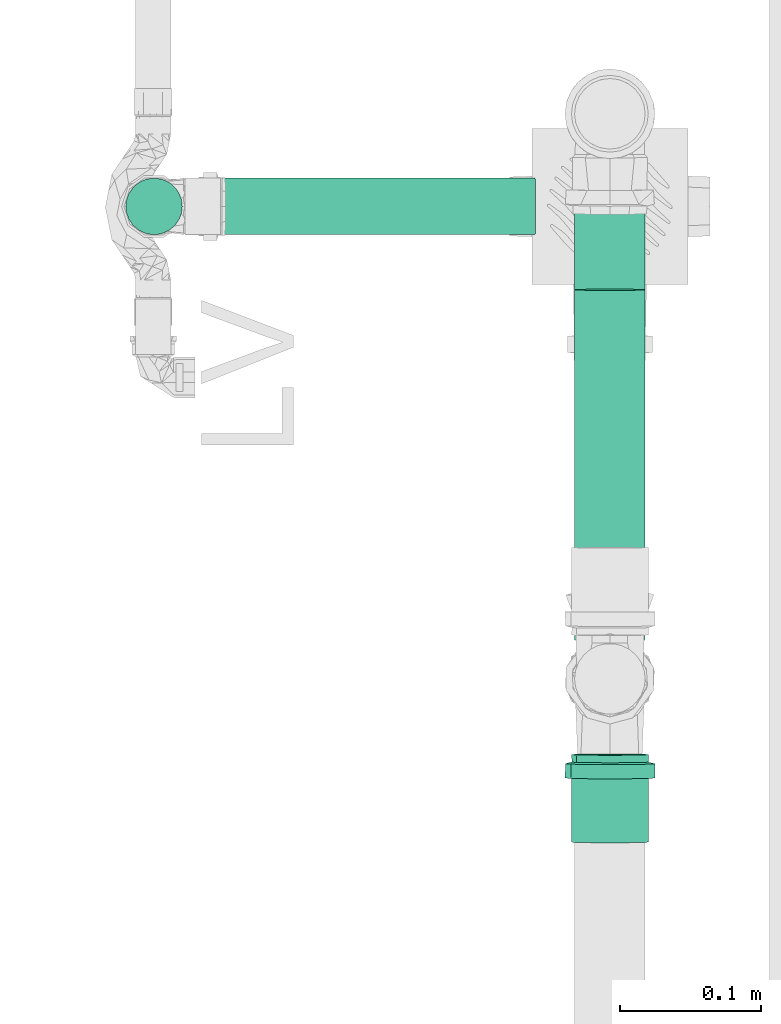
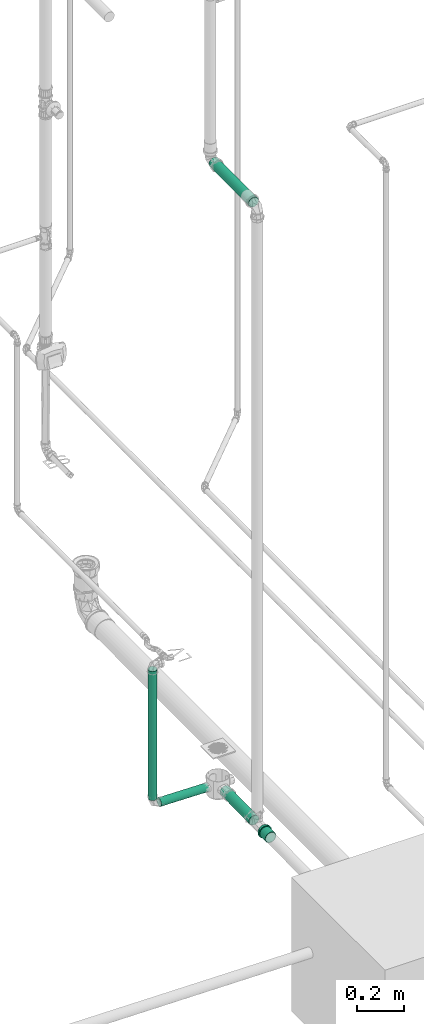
# One storey, part 39 of 589: 4 flow segments, 1 flow fitting.
"""IFC2X3 building model written with IfcOpenShell, lengths in millimetres."""

from ifc_helpers import new_model, entity, si_unit, converted_unit, derived_unit, direction, frame, frame_2d, origin, origin_2d_with_axis, place, context, subcontext, project, spatial, circle, extrude, faceted_brep, source, transform, mapped, material, type_object, type_shapes, element, save


model = new_model("IFC2X3")

# Units and contexts
model_context = context("Model", 3, precision=0.01, world=origin(), true_north=direction((6.123031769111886e-17, 1.0)))
body_context = subcontext(model_context, "Body", "Model", "MODEL_VIEW")
ifc_project = project(units=[si_unit("LENGTHUNIT", "METRE", prefix="MILLI"), si_unit("AREAUNIT", "SQUARE_METRE"), si_unit("VOLUMEUNIT", "CUBIC_METRE"), converted_unit("PLANEANGLEUNIT", "DEGREE", entity("IfcRatioMeasure", 0.017453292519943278), si_unit("PLANEANGLEUNIT", "RADIAN"), dimensions=[0, 0, 0, 0, 0, 0, 0]), si_unit("MASSUNIT", "GRAM", prefix="KILO"), derived_unit("MASSDENSITYUNIT", [(si_unit("MASSUNIT", "GRAM", prefix="KILO"), 1), (si_unit("LENGTHUNIT", "METRE"), -3)]), derived_unit("IONCONCENTRATIONUNIT", [(si_unit("MASSUNIT", "GRAM", prefix="KILO"), 1), (si_unit("LENGTHUNIT", "METRE"), -3)]), derived_unit("MOMENTOFINERTIAUNIT", [(si_unit("LENGTHUNIT", "METRE"), 4)]), si_unit("TIMEUNIT", "SECOND"), si_unit("FREQUENCYUNIT", "HERTZ"), si_unit("THERMODYNAMICTEMPERATUREUNIT", "DEGREE_CELSIUS"), derived_unit("THERMALTRANSMITTANCEUNIT", [(si_unit("MASSUNIT", "GRAM", prefix="KILO"), 1), (si_unit("THERMODYNAMICTEMPERATUREUNIT", "KELVIN"), -1), (si_unit("TIMEUNIT", "SECOND"), -3)]), derived_unit("THERMALCONDUCTANCEUNIT", [(si_unit("MASSUNIT", "GRAM", prefix="KILO"), 1), (si_unit("THERMODYNAMICTEMPERATUREUNIT", "KELVIN"), -1), (si_unit("TIMEUNIT", "SECOND"), -3), (si_unit("LENGTHUNIT", "METRE"), 1)]), derived_unit("VOLUMETRICFLOWRATEUNIT", [(si_unit("LENGTHUNIT", "METRE"), 3), (si_unit("TIMEUNIT", "SECOND"), -1)]), derived_unit("MASSFLOWRATEUNIT", [(si_unit("MASSUNIT", "GRAM", prefix="KILO"), 1), (si_unit("TIMEUNIT", "SECOND"), -1)]), derived_unit("ROTATIONALFREQUENCYUNIT", [(si_unit("TIMEUNIT", "SECOND"), -1)]), si_unit("ELECTRICCURRENTUNIT", "AMPERE"), si_unit("ELECTRICVOLTAGEUNIT", "VOLT"), si_unit("POWERUNIT", "WATT"), si_unit("FORCEUNIT", "NEWTON", prefix="KILO"), si_unit("ILLUMINANCEUNIT", "LUX"), si_unit("LUMINOUSFLUXUNIT", "LUMEN"), si_unit("LUMINOUSINTENSITYUNIT", "CANDELA"), derived_unit("USERDEFINED", [(si_unit("MASSUNIT", "GRAM", prefix="KILO"), -1), (si_unit("LENGTHUNIT", "METRE"), -2), (si_unit("TIMEUNIT", "SECOND"), 3), (si_unit("LUMINOUSFLUXUNIT", "LUMEN"), 1)]), derived_unit("USERDEFINED", [(si_unit("MASSUNIT", "GRAM", prefix="KILO"), 1), (si_unit("TIMEUNIT", "SECOND"), -3), (si_unit("LENGTHUNIT", "METRE"), 3), (si_unit("ELECTRICCURRENTUNIT", "AMPERE"), -2)]), derived_unit("SOUNDPOWERUNIT", [(si_unit("MASSUNIT", "GRAM", prefix="KILO"), 1), (si_unit("TIMEUNIT", "SECOND"), -3), (si_unit("LENGTHUNIT", "METRE"), 2)]), derived_unit("SOUNDPRESSUREUNIT", [(si_unit("MASSUNIT", "GRAM", prefix="KILO"), 1), (si_unit("LENGTHUNIT", "METRE"), -1), (si_unit("TIMEUNIT", "SECOND"), -2)]), derived_unit("LINEARVELOCITYUNIT", [(si_unit("LENGTHUNIT", "METRE"), 1), (si_unit("TIMEUNIT", "SECOND"), -1)]), si_unit("PRESSUREUNIT", "PASCAL"), derived_unit("USERDEFINED", [(si_unit("MASSUNIT", "GRAM", prefix="KILO"), 1), (si_unit("LENGTHUNIT", "METRE"), -2), (si_unit("TIMEUNIT", "SECOND"), -2)]), derived_unit("LINEARFORCEUNIT", [(si_unit("MASSUNIT", "GRAM", prefix="KILO"), 1), (si_unit("TIMEUNIT", "SECOND"), -2)]), derived_unit("PLANARFORCEUNIT", [(si_unit("MASSUNIT", "GRAM", prefix="KILO"), 1), (si_unit("LENGTHUNIT", "METRE"), -1), (si_unit("TIMEUNIT", "SECOND"), -2)]), derived_unit("SPECIFICHEATCAPACITYUNIT", [(si_unit("THERMODYNAMICTEMPERATUREUNIT", "KELVIN"), -1), (si_unit("LENGTHUNIT", "METRE"), 2), (si_unit("TIMEUNIT", "SECOND"), -2)]), derived_unit("HEATINGVALUEUNIT", [(si_unit("LENGTHUNIT", "METRE"), 2), (si_unit("TIMEUNIT", "SECOND"), -2)]), derived_unit("VAPORPERMEABILITYUNIT", [(si_unit("LENGTHUNIT", "METRE"), -1), (si_unit("TIMEUNIT", "SECOND"), 1)]), derived_unit("DYNAMICVISCOSITYUNIT", [(si_unit("MASSUNIT", "GRAM", prefix="KILO"), 1), (si_unit("TIMEUNIT", "SECOND"), -1), (si_unit("LENGTHUNIT", "METRE"), -1)]), derived_unit("THERMALEXPANSIONCOEFFICIENTUNIT", [(si_unit("THERMODYNAMICTEMPERATUREUNIT", "KELVIN"), -1)]), derived_unit("MODULUSOFELASTICITYUNIT", [(si_unit("MASSUNIT", "GRAM", prefix="KILO"), 1), (si_unit("LENGTHUNIT", "METRE"), -1), (si_unit("TIMEUNIT", "SECOND"), -2)]), derived_unit("ISOTHERMALMOISTURECAPACITYUNIT", [(si_unit("LENGTHUNIT", "METRE"), 3), (si_unit("MASSUNIT", "GRAM", prefix="KILO"), -1)]), derived_unit("MOISTUREDIFFUSIVITYUNIT", [(si_unit("TIMEUNIT", "SECOND"), -1), (si_unit("LENGTHUNIT", "METRE"), 2)])], contexts=[model_context])

# Site, building, storey
site_placement = place(None, origin())
site = spatial("IfcSite", under=ifc_project, at=site_placement, Name="Default", CompositionType="ELEMENT")
building_placement = place(site_placement, origin())
building = spatial("IfcBuilding", under=site, at=building_placement, CompositionType="ELEMENT")
storey_placement = place(building_placement, frame((0.0, 0.0, 100.0)))
storey = spatial("IfcBuildingStorey", under=building, at=storey_placement, Name="TÉRREO", CompositionType="ELEMENT", Elevation=100.0)

# Flow segments
pipe_segment_type = type_object("IfcPipeSegmentType", Name="Tipos de tubos:PVC Esgoto Série Normal", PredefinedType="NOTDEFINED")
flow_segment_1_placement = place(storey_placement, origin())
element("IfcFlowSegment", 1, at=flow_segment_1_placement, inside=storey, type_object=pipe_segment_type, Name="Tipos de tubos:PVC Esgoto Série Normal", ObjectType="Tipos de tubos:PVC Esgoto Série Normal", context=body_context, shape_type="SweptSolid", body=[
    extrude(circle(Radius=25.0, at=frame_2d((-2.707167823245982e-13, -3.383283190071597e-14), x_axis=(1.0, 0.0))), frame((1855.1564123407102, -10029.87839340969, -242.75882369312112), z_axis=(0.0, 0.999800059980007, 0.019996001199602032), x_axis=(1.0, 0.0, 0.0)), (0.0, 0.0, 1.0), 248.07696651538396),
])
flow_segment_2_placement = place(storey_placement, origin())
element("IfcFlowSegment", 2, at=flow_segment_2_placement, inside=storey, type_object=pipe_segment_type, Name="Tipos de tubos:PVC Esgoto Série Normal", ObjectType="Tipos de tubos:PVC Esgoto Série Normal", context=body_context, shape_type="SweptSolid", body=[
    extrude(circle(Radius=20.0, at=frame_2d((0.0, -3.3832831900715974e-14), x_axis=(1.0, 0.0))), frame((1802.256412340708, -9722.851027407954, -237.7982763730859), z_axis=(-0.9998000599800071, 0.0, 0.01999600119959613), x_axis=(0.0, -1.0, 0.0)), (0.0, 0.0, 1.0), 237.62820768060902),
])
flow_segment_3_placement = place(storey_placement, origin())
element("IfcFlowSegment", 3, at=flow_segment_3_placement, inside=storey, type_object=pipe_segment_type, Name="Tipos de tubos:PVC Esgoto Série Normal", ObjectType="Tipos de tubos:PVC Esgoto Série Normal", context=body_context, shape_type="SweptSolid", body=[
    extrude(circle(Radius=20.0, at=origin_2d_with_axis()), frame((1532.4761559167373, -9722.851027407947, -200.19667184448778)), (0.0, 0.0, 1.0), 673.3966718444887),
])
flow_segment_4_placement = place(storey_placement, origin())
element("IfcFlowSegment", 4, at=flow_segment_4_placement, inside=storey, type_object=pipe_segment_type, Name="Tipos de tubos:PVC Esgoto Série Normal", ObjectType="Tipos de tubos:PVC Esgoto Série Normal", context=body_context, shape_type="SweptSolid", body=[
    extrude(circle(Radius=25.0, at=frame_2d((0.0, 5.197502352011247e-13), x_axis=(1.0, 0.0))), frame((1855.1564123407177, -10026.333162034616, 2977.002683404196), z_axis=(0.0, 0.9999500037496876, 0.009999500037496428), x_axis=(1.0, 0.0, 0.0)), (0.0, 0.0, 1.0), 338.137399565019),
])

# Flow fitting
ifc_material = material(Name="PVC Série Normal")
pipe_fitting_type = type_object("IfcPipeFittingType", Name="PVC Esgoto_Luva Simples para Conexão_Rodrigo MEP:Standard", PredefinedType="NOTDEFINED", material=ifc_material)
shared_shape = source(origin(), body_context, "Body", "Brep", [
    faceted_brep([(16.599999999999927, -13.599999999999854, -23.555890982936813), (16.599999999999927, -22.485995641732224, -22.485995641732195), (16.599999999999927, -15.900000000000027, -27.53960784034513), (16.599999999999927, -19.233304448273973, -19.233304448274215), (16.599999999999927, -7.039878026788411, -26.273182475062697), (16.599999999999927, -27.539607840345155, -15.899999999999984), (16.599999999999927, -23.55589098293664, -13.600000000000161), (16.599999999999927, -26.273182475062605, -7.03987802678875), (16.599999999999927, -30.716441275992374, -8.230445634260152), (16.599999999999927, -27.2, 0.0), (16.599999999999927, -31.8, 0.0), (16.599999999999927, -26.273182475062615, 7.0398780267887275), (16.599999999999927, -30.71644127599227, 8.23044563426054), (16.599999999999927, -23.555890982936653, 13.60000000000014), (16.599999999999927, -27.539607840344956, 15.900000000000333), (16.599999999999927, -19.233304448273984, 19.2333044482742), (16.599999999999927, -22.485995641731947, 22.48599564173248), (16.599999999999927, -13.599999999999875, 23.555890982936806), (16.599999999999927, -15.899999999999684, 27.53960784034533), (16.599999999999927, -7.039878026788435, 26.27318247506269), (16.599999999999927, -8.230445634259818, 30.716441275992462), (16.599999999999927, 0.0, 27.2), (16.599999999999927, 0.0, 31.8), (16.599999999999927, 7.039878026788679, 26.273182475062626), (16.599999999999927, 8.230445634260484, 30.716441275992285), (16.599999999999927, 13.600000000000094, 23.555890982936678), (16.599999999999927, 15.900000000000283, 27.53960784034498), (16.599999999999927, 19.23330444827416, 19.233304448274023), (16.599999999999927, 22.485995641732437, 22.48599564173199), (16.599999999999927, 23.55589098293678, 13.59999999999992), (16.599999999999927, 27.539607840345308, 15.899999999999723), (16.599999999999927, 30.71644127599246, 8.230445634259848), (16.599999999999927, 26.273182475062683, 7.039878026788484), (16.599999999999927, 31.8, 0.0), (16.599999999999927, 27.2, 0.0), (16.599999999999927, 30.71644127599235, -8.23044563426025), (16.599999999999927, 26.273182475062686, -7.03987802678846), (16.599999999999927, 27.53960784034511, -15.90000000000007), (16.599999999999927, 23.55589098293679, -13.599999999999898), (16.599999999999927, 22.485995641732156, -22.485995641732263), (16.599999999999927, 19.233304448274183, -19.233304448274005), (16.599999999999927, 15.899999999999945, -27.53960784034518), (16.599999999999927, 13.600000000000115, -23.555890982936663), (16.599999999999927, 8.230445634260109, -30.716441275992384), (16.599999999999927, 7.039878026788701, -26.273182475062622), (16.599999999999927, 0.0, -31.8), (16.599999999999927, 0.0, -27.2), (16.599999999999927, -8.2304456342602, -30.71644127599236), (6.5000000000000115, 31.8, 0.0), (6.500000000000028, 30.243828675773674, 9.826028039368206), (6.500000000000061, 18.6933889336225, 25.72541953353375), (6.500000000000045, 25.727620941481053, 18.69035903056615), (6.500000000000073, 9.829589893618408, 30.24267122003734), (6.50000000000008, 0.0037451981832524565, 31.799999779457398), (6.5000000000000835, -9.822466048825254, 30.244985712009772), (6.500000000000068, -25.723217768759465, 18.696418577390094), (6.50000000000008, -18.687328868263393, 25.729821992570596), (6.50000000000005, -30.24167131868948, 9.832665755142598), (6.5000000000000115, -31.8, 0.0), (6.499999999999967, -24.364200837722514, -20.435892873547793), (6.499999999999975, -27.12442527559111, -15.652735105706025), (6.499999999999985, -29.884649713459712, -10.869577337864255), (6.499999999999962, -20.134403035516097, -23.986420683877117), (6.4999999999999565, -15.904605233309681, -27.53694849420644), (6.499999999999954, -10.715490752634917, -29.42653259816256), (6.499999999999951, -5.526376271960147, -31.31611670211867), (6.499999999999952, -0.003927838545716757, -31.316809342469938), (6.499999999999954, 5.518520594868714, -31.317501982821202), (6.499999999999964, 15.897697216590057, -27.54093722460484), (6.499999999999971, 20.128385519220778, -23.99147055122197), (6.499999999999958, 10.70810890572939, -29.42921960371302), (6.499999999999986, 27.12049800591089, -15.659538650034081), (6.499999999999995, 29.881922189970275, -10.877073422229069), (6.499999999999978, 24.359073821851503, -20.442003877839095), (6.499999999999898, 30.69617385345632, -6.259599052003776), (6.500000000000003, 30.84096109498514, -5.438536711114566), (62.0, -12.499999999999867, -21.650635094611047), (62.0, -19.233304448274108, -19.23330444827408), (62.0, -13.600000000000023, -23.55589098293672), (62.0, -6.470476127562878, -24.14814565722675), (62.0, -17.677669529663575, -17.677669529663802), (62.0, -23.55589098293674, -13.599999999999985), (62.0, -21.65063509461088, -12.50000000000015), (62.0, -24.148145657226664, -6.470476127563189), (62.0, -26.27318247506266, -7.039878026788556), (62.0, -25.0, 0.0), (62.0, -27.2, 0.0), (62.0, -24.148145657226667, 6.4704761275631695), (62.0, -26.273182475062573, 7.03987802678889), (62.0, -21.650635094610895, 12.500000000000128), (62.0, -23.555890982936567, 13.600000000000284), (62.0, -17.67766952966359, 17.67766952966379), (62.0, -19.233304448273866, 19.233304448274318), (62.0, -12.499999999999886, 21.650635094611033), (62.0, -13.59999999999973, 23.55589098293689), (62.0, -6.4704761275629, 24.14814565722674), (62.0, -7.039878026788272, 26.273182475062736), (62.0, 0.0, 25.0), (62.0, 0.0, 27.2), (62.0, 6.470476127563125, 24.148145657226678), (62.0, 7.039878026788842, 26.273182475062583), (62.0, 12.500000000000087, 21.650635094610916), (62.0, 13.600000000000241, 23.555890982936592), (62.0, 17.677669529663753, 17.677669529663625), (62.0, 19.233304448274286, 19.2333044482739), (62.0, 21.65063509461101, 12.499999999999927), (62.0, 23.555890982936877, 13.599999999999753), (62.0, 26.27318247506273, 7.039878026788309), (62.0, 24.14814565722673, 6.470476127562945), (62.0, 27.2, 0.0), (62.0, 25.0, 0.0), (62.0, 26.27318247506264, -7.0398780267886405), (62.0, 24.148145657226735, -6.470476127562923), (62.0, 23.5558909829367, -13.600000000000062), (62.0, 21.650635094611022, -12.499999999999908), (62.0, 19.233304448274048, -19.233304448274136), (62.0, 17.67766952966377, -17.677669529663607), (62.0, 13.599999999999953, -23.555890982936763), (62.0, 12.500000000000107, -21.650635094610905), (62.0, 7.039878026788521, -26.27318247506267), (62.0, 6.470476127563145, -24.148145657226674), (62.0, 0.0, -27.2), (62.0, 0.0, -25.0), (62.0, -7.039878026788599, -26.273182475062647), (0.0, -13.600000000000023, -23.55589098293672), (0.0, -19.233304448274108, -19.23330444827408), (0.0, -12.499999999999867, -21.650635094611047), (0.0, -6.470476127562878, -24.14814565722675), (0.0, -7.039878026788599, -26.273182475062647), (0.0, -17.677669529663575, -17.677669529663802), (0.0, -23.55589098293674, -13.599999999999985), (0.0, -21.65063509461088, -12.50000000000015), (0.0, -24.148145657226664, -6.470476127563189), (0.0, -26.27318247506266, -7.039878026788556), (0.0, -25.0, 0.0), (0.0, -27.2, 0.0), (0.0, -24.148145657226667, 6.4704761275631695), (0.0, -26.273182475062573, 7.03987802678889), (0.0, -21.650635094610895, 12.500000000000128), (0.0, -23.555890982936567, 13.600000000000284), (0.0, -17.67766952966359, 17.67766952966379), (0.0, -19.233304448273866, 19.233304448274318), (0.0, -12.499999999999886, 21.650635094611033), (0.0, -13.59999999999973, 23.55589098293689), (0.0, -6.4704761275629, 24.14814565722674), (0.0, -7.039878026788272, 26.273182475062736), (0.0, 0.0, 25.0), (0.0, 0.0, 27.2), (0.0, 6.470476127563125, 24.148145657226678), (0.0, 7.039878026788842, 26.273182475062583), (0.0, 12.500000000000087, 21.650635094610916), (0.0, 13.600000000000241, 23.555890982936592), (0.0, 17.677669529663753, 17.677669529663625), (0.0, 19.233304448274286, 19.2333044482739), (0.0, 21.65063509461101, 12.499999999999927), (0.0, 23.555890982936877, 13.599999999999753), (0.0, 26.27318247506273, 7.039878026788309), (0.0, 24.14814565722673, 6.470476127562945), (0.0, 27.2, 0.0), (0.0, 25.0, 0.0), (0.0, 26.27318247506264, -7.0398780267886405), (0.0, 24.148145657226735, -6.470476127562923), (0.0, 23.5558909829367, -13.600000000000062), (0.0, 21.650635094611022, -12.499999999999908), (0.0, 19.233304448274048, -19.233304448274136), (0.0, 17.67766952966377, -17.677669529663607), (0.0, 13.599999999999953, -23.555890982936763), (0.0, 12.500000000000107, -21.650635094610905), (0.0, 7.039878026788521, -26.27318247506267), (0.0, 6.470476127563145, -24.148145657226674), (0.0, 0.0, -27.2), (0.0, 0.0, -25.0), (5.299999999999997, 27.2, 0.0), (5.300000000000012, 25.868346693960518, 8.406464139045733), (5.300000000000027, 22.003776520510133, 15.989803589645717), (5.30000000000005, 8.400454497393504, 25.870298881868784), (5.300000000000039, 15.9846915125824, 22.007490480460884), (5.300000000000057, -0.00631876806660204, 27.199999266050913), (5.30000000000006, -8.412473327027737, 25.866393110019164), (5.3000000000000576, -15.99491480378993, 22.00006137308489), (5.300000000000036, -25.8722496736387, 8.394444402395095), (5.30000000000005, -22.011203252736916, 15.97957857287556), (5.299999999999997, -27.2, 0.0), (5.299999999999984, -25.56171296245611, -9.29724854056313), (5.2999999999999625, -17.22187932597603, -20.516686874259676), (5.299999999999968, -20.839819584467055, -17.47975742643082), (5.299999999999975, -23.200766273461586, -13.388502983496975), (5.2999999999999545, -9.165451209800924, -25.169864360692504), (5.299999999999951, -4.726963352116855, -26.78611239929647), (5.299999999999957, -13.603939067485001, -23.553616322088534), (5.29999999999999, 26.379689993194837, -4.651830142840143), (5.299999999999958, 13.5980303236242, -23.55702806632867), (5.299999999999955, 9.159137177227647, -25.17216267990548), (5.299999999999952, 4.720244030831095, -26.787297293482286), (5.299999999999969, 20.83543421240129, -17.484984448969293), (5.299999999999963, 17.216732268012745, -20.52100625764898), (5.299999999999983, 25.559379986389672, -9.303660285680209), (5.299999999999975, 23.197407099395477, -13.394322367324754), (5.299999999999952, -0.0033596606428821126, -26.78670484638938), (39.0, 25.0, 0.0), (39.0, -25.0, 0.0)], [[[0, 1, 2]], [[3, 1, 0]], [[4, 0, 2]], [[1, 3, 5]], [[5, 3, 6]], [[5, 6, 7]], [[8, 5, 7]], [[9, 8, 7]], [[10, 8, 9]], [[10, 9, 11]], [[12, 10, 11]], [[12, 11, 13]], [[14, 12, 13]], [[14, 13, 15]], [[15, 16, 14]], [[15, 17, 16]], [[17, 18, 16]], [[19, 18, 17]], [[18, 19, 20]], [[21, 20, 19]], [[22, 20, 21]], [[23, 22, 21]], [[24, 22, 23]], [[25, 24, 23]], [[24, 25, 26]], [[25, 27, 26]], [[28, 26, 27]], [[28, 27, 29]], [[28, 29, 30]], [[30, 29, 31]], [[31, 29, 32]], [[33, 31, 32]], [[33, 32, 34]], [[33, 34, 35]], [[34, 36, 35]], [[37, 35, 36]], [[37, 36, 38]], [[39, 37, 38]], [[40, 39, 38]], [[40, 41, 39]], [[42, 41, 40]], [[43, 41, 42]], [[42, 44, 43]], [[43, 44, 45]], [[44, 46, 45]], [[46, 4, 47]], [[45, 46, 47]], [[2, 47, 4]], [[33, 48, 31]], [[31, 49, 30]], [[26, 28, 50]], [[51, 28, 30]], [[24, 26, 52]], [[49, 51, 30]], [[31, 48, 49]], [[50, 52, 26]], [[28, 51, 50]], [[52, 53, 24]], [[53, 22, 24]], [[20, 53, 54]], [[20, 54, 18]], [[14, 16, 55]], [[56, 16, 18]], [[12, 14, 57]], [[56, 55, 16]], [[18, 54, 56]], [[57, 58, 12]], [[14, 55, 57]], [[58, 10, 12]], [[22, 53, 20]], [[8, 10, 58]], [[59, 1, 5]], [[60, 59, 5, 61]], [[2, 62, 63]], [[8, 58, 61]], [[2, 63, 64]], [[47, 2, 64]], [[64, 65, 47]], [[62, 1, 59]], [[66, 67, 45, 65]], [[41, 68, 69]], [[1, 62, 2]], [[39, 41, 69]], [[8, 61, 5]], [[43, 45, 67]], [[68, 41, 70]], [[71, 72, 37, 73]], [[43, 70, 41]], [[72, 35, 37]], [[69, 73, 39]], [[70, 43, 67]], [[47, 65, 45]], [[39, 73, 37]], [[35, 72, 74, 75]], [[33, 75, 48]], [[35, 75, 33]], [[76, 77, 78]], [[79, 76, 78]], [[80, 77, 76]], [[77, 80, 81]], [[82, 81, 80]], [[83, 81, 82]], [[81, 83, 84]], [[83, 85, 84]], [[86, 84, 85]], [[86, 85, 87]], [[87, 88, 86]], [[89, 88, 87]], [[88, 89, 90]], [[91, 90, 89]], [[92, 90, 91]], [[92, 91, 93]], [[93, 94, 92]], [[95, 94, 93]], [[94, 95, 96]], [[97, 96, 95]], [[98, 96, 97]], [[99, 98, 97]], [[100, 98, 99]], [[101, 100, 99]], [[100, 101, 102]], [[101, 103, 102]], [[104, 102, 103]], [[103, 105, 104]], [[104, 105, 106]], [[107, 106, 105]], [[105, 108, 107]], [[107, 108, 109]], [[108, 110, 109]], [[109, 110, 111]], [[110, 112, 111]], [[113, 111, 112]], [[112, 114, 113]], [[115, 113, 114]], [[116, 115, 114]], [[116, 117, 115]], [[118, 117, 116]], [[119, 117, 118]], [[118, 120, 119]], [[119, 120, 121]], [[120, 122, 121]], [[122, 79, 123]], [[121, 122, 123]], [[78, 123, 79]], [[124, 125, 126]], [[124, 126, 127]], [[127, 128, 124]], [[126, 125, 129]], [[130, 129, 125]], [[129, 130, 131]], [[131, 130, 132]], [[133, 132, 130]], [[133, 134, 132]], [[134, 133, 135]], [[136, 134, 135]], [[135, 137, 136]], [[136, 137, 138]], [[139, 138, 137]], [[138, 139, 140]], [[140, 139, 141]], [[142, 140, 141]], [[141, 143, 142]], [[142, 143, 144]], [[145, 144, 143]], [[144, 145, 146]], [[146, 145, 147]], [[146, 147, 148]], [[148, 147, 149]], [[148, 149, 150]], [[151, 150, 149]], [[151, 152, 150]], [[152, 151, 153]], [[153, 154, 152]], [[155, 154, 153]], [[154, 155, 156]], [[156, 157, 154]], [[158, 157, 156]], [[158, 159, 157]], [[160, 159, 158]], [[160, 161, 159]], [[161, 160, 162]], [[162, 163, 161]], [[163, 162, 164]], [[163, 164, 165]], [[164, 166, 165]], [[165, 166, 167]], [[167, 166, 168]], [[168, 169, 167]], [[170, 169, 168]], [[128, 171, 170]], [[170, 171, 169]], [[128, 127, 171]], [[172, 156, 173]], [[173, 155, 174]], [[175, 176, 151]], [[175, 149, 177]], [[153, 176, 174]], [[177, 149, 147]], [[156, 155, 173]], [[172, 158, 156]], [[32, 107, 109, 34]], [[153, 151, 176]], [[174, 155, 153]], [[151, 149, 175]], [[177, 145, 178]], [[178, 143, 179]], [[180, 181, 139]], [[141, 181, 179]], [[182, 180, 137]], [[143, 141, 179]], [[178, 145, 143]], [[139, 137, 180]], [[181, 141, 139]], [[137, 135, 182]], [[86, 88, 11, 9]], [[147, 145, 177]], [[183, 182, 133]], [[184, 185, 125]], [[186, 183, 130, 185]], [[187, 128, 188]], [[183, 133, 130]], [[182, 135, 133]], [[86, 9, 7, 84]], [[128, 187, 124]], [[124, 189, 184]], [[125, 185, 130]], [[160, 158, 190]], [[166, 191, 192]], [[187, 189, 124]], [[168, 166, 192]], [[188, 128, 170]], [[125, 124, 184]], [[192, 193, 168]], [[194, 195, 164]], [[190, 196, 160]], [[197, 194, 162, 196]], [[160, 196, 162]], [[164, 195, 166]], [[198, 188, 170, 193]], [[168, 193, 170]], [[194, 164, 162]], [[166, 195, 191]], [[158, 172, 190]], [[199, 110, 108, 157, 159]], [[103, 101, 150, 152]], [[152, 154, 105, 103]], [[154, 157, 108, 105]], [[148, 150, 101, 99]], [[99, 97, 146, 148]], [[144, 146, 97, 95]], [[93, 142, 144, 95]], [[89, 87, 136, 138]], [[138, 140, 91, 89]], [[140, 142, 93, 91]], [[200, 134, 136, 87, 85]], [[85, 83, 132, 134, 200]], [[80, 76, 126, 129]], [[132, 83, 82, 131]], [[80, 129, 131, 82]], [[127, 126, 76, 79]], [[79, 122, 171, 127]], [[169, 171, 122, 120]], [[118, 167, 169, 120]], [[114, 112, 161, 163]], [[163, 165, 116, 114]], [[165, 167, 118, 116]], [[199, 159, 161, 112, 110]], [[190, 172, 48, 75, 74, 72, 196]], [[197, 196, 72, 71, 73, 194]], [[195, 194, 73, 69, 68, 191]], [[68, 70, 67, 193, 192, 191]], [[66, 65, 188, 198, 193, 67]], [[63, 189, 187, 188, 65, 64]], [[58, 182, 183, 61]], [[59, 60, 61, 183, 186, 185]], [[63, 62, 59, 185, 184, 189]], [[57, 181, 180]], [[54, 177, 178]], [[56, 178, 179]], [[55, 179, 181]], [[58, 180, 182]], [[58, 57, 180]], [[181, 57, 55]], [[55, 56, 179]], [[56, 54, 178]], [[54, 53, 177]], [[52, 176, 175]], [[49, 172, 173]], [[51, 173, 174]], [[50, 174, 176]], [[52, 50, 176]], [[175, 53, 52]], [[50, 51, 174]], [[173, 51, 49]], [[172, 49, 48]], [[177, 53, 175]], [[106, 107, 32, 29]], [[102, 104, 27, 25]], [[27, 104, 106, 29]], [[100, 102, 25, 23]], [[23, 21, 98, 100]], [[94, 96, 19, 17]], [[94, 17, 15, 92]], [[88, 90, 13, 11]], [[13, 90, 92, 15]], [[98, 21, 19, 96]], [[84, 7, 6, 81]], [[0, 4, 123, 78]], [[77, 81, 6, 3]], [[77, 3, 0, 78]], [[4, 46, 121, 123]], [[117, 119, 44, 42]], [[117, 42, 40, 115]], [[111, 113, 38, 36]], [[38, 113, 115, 40]], [[109, 111, 36, 34]], [[121, 46, 44, 119]]]),
])
type_shapes(pipe_fitting_type, [shared_shape])
flow_fitting_placement = place(storey_placement, frame((1855.1564123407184, -10110.86219826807, -244.37849979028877), z_axis=(1.0, 0.0, 0.0), x_axis=(0.0, -0.9998000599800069, -0.01999600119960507)))
element("IfcFlowFitting", 5, at=flow_fitting_placement, inside=storey, type_object=pipe_fitting_type, material=ifc_material, Name="PVC Esgoto_Luva Simples para Conexão_Rodrigo MEP:Standard", ObjectType="PVC Esgoto_Luva Simples para Conexão_Rodrigo MEP:Standard", context=body_context, shape_type="MappedRepresentation", body=[
    mapped(shared_shape, transform((0.0, 0.0, 0.0), scale=1.0)),
])

save(model, "model.ifc")
